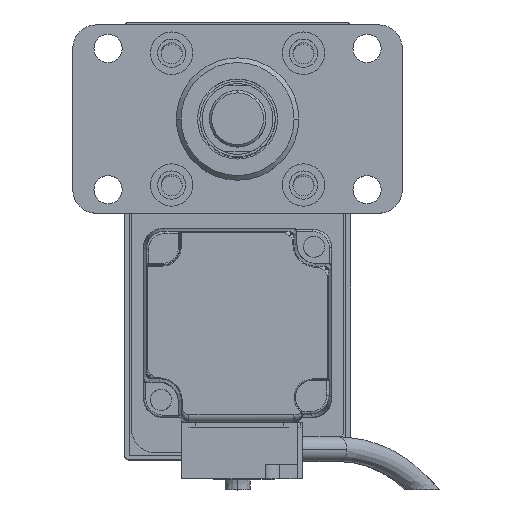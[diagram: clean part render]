
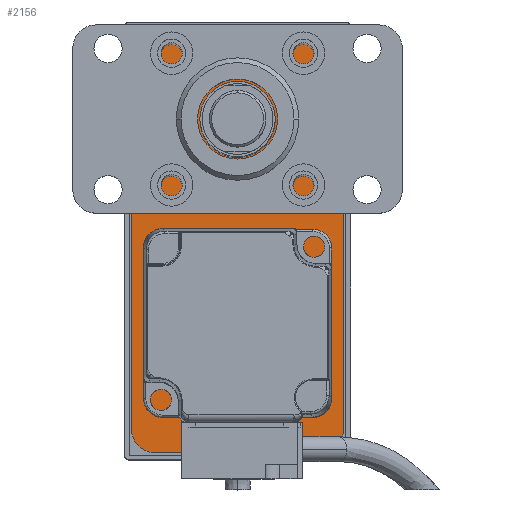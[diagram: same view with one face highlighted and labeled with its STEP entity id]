
A CAD part, top view. The second image highlights one B-rep face of the part: STEP entity #2156.
In plain terms, the highlighted planar face has unit normal (0, 0, 1).
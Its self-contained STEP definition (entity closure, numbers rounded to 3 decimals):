
#66 = VERTEX_POINT ( 'NONE', #13493 ) ;
#814 = EDGE_CURVE ( 'NONE', #10036, #5554, #24606, .T. ) ;
#828 = ORIENTED_EDGE ( 'NONE', *, *, #10095, .T. ) ;
#928 = CARTESIAN_POINT ( 'NONE',  ( 22.5, -40., 10. ) ) ;
#1123 = LINE ( 'NONE', #4551, #17663 ) ;
#1827 = DIRECTION ( 'NONE',  ( 1., 0., 0. ) ) ;
#1835 = ORIENTED_EDGE ( 'NONE', *, *, #2874, .T. ) ;
#2078 = DIRECTION ( 'NONE',  ( 1., 0., 0. ) ) ;
#2156 = ADVANCED_FACE ( 'NONE', ( #21279 ), #22962, .T. ) ;
#2397 = LINE ( 'NONE', #15364, #11428 ) ;
#2412 = DIRECTION ( 'NONE',  ( 0., 0., 1. ) ) ;
#2874 = EDGE_CURVE ( 'NONE', #11523, #66, #6436, .T. ) ;
#4551 = CARTESIAN_POINT ( 'NONE',  ( 22.5, 45., 10. ) ) ;
#5263 = CARTESIAN_POINT ( 'NONE',  ( -22.5, 40., 10. ) ) ;
#5333 = CIRCLE ( 'NONE', #16840, 5. ) ;
#5380 = CARTESIAN_POINT ( 'NONE',  ( 0., 0., 10. ) ) ;
#5554 = VERTEX_POINT ( 'NONE', #928 ) ;
#5762 = DIRECTION ( 'NONE',  ( 0., -1., 0. ) ) ;
#5866 = LINE ( 'NONE', #15298, #9518 ) ;
#5889 = CARTESIAN_POINT ( 'NONE',  ( -17.5, 45., 10. ) ) ;
#6002 = EDGE_CURVE ( 'NONE', #21599, #17853, #2397, .T. ) ;
#6368 = CARTESIAN_POINT ( 'NONE',  ( 17.5, -40., 10. ) ) ;
#6436 = CIRCLE ( 'NONE', #15690, 5. ) ;
#7451 = CARTESIAN_POINT ( 'NONE',  ( 17.5, -45., 10. ) ) ;
#8139 = CARTESIAN_POINT ( 'NONE',  ( 22.5, 40., 10. ) ) ;
#8197 = EDGE_CURVE ( 'NONE', #66, #24096, #1123, .T. ) ;
#8249 = DIRECTION ( 'NONE',  ( 1., 0., 0. ) ) ;
#9168 = VERTEX_POINT ( 'NONE', #16866 ) ;
#9518 = VECTOR ( 'NONE', #1827, 1000. ) ;
#9991 = ORIENTED_EDGE ( 'NONE', *, *, #814, .T. ) ;
#10036 = VERTEX_POINT ( 'NONE', #7451 ) ;
#10095 = EDGE_CURVE ( 'NONE', #17853, #9168, #5333, .T. ) ;
#10671 = CIRCLE ( 'NONE', #23545, 5. ) ;
#11428 = VECTOR ( 'NONE', #5762, 1000. ) ;
#11490 = AXIS2_PLACEMENT_3D ( 'NONE', #5380, #13125, #13384 ) ;
#11523 = VERTEX_POINT ( 'NONE', #8139 ) ;
#11634 = DIRECTION ( 'NONE',  ( 1., 0., 0. ) ) ;
#11852 = DIRECTION ( 'NONE',  ( 0., 0., 1. ) ) ;
#13125 = DIRECTION ( 'NONE',  ( 0., 0., 1. ) ) ;
#13384 = DIRECTION ( 'NONE',  ( 1., 0., 0. ) ) ;
#13493 = CARTESIAN_POINT ( 'NONE',  ( 17.5, 45., 10. ) ) ;
#13546 = ORIENTED_EDGE ( 'NONE', *, *, #16260, .T. ) ;
#15298 = CARTESIAN_POINT ( 'NONE',  ( 22.5, -45., 10. ) ) ;
#15364 = CARTESIAN_POINT ( 'NONE',  ( -22.5, -45., 10. ) ) ;
#15483 = EDGE_CURVE ( 'NONE', #5554, #11523, #17330, .T. ) ;
#15690 = AXIS2_PLACEMENT_3D ( 'NONE', #21379, #19382, #11634 ) ;
#16053 = EDGE_CURVE ( 'NONE', #9168, #10036, #5866, .T. ) ;
#16260 = EDGE_CURVE ( 'NONE', #24096, #21599, #10671, .T. ) ;
#16478 = ORIENTED_EDGE ( 'NONE', *, *, #8197, .T. ) ;
#16840 = AXIS2_PLACEMENT_3D ( 'NONE', #21512, #2412, #19417 ) ;
#16866 = CARTESIAN_POINT ( 'NONE',  ( -17.5, -45., 10. ) ) ;
#17330 = LINE ( 'NONE', #20176, #21523 ) ;
#17663 = VECTOR ( 'NONE', #17754, 1000. ) ;
#17754 = DIRECTION ( 'NONE',  ( -1., 0., 0. ) ) ;
#17853 = VERTEX_POINT ( 'NONE', #19010 ) ;
#18168 = DIRECTION ( 'NONE',  ( 0., 1., 0. ) ) ;
#19010 = CARTESIAN_POINT ( 'NONE',  ( -22.5, -40., 10. ) ) ;
#19161 = ORIENTED_EDGE ( 'NONE', *, *, #15483, .T. ) ;
#19382 = DIRECTION ( 'NONE',  ( 0., 0., 1. ) ) ;
#19383 = AXIS2_PLACEMENT_3D ( 'NONE', #6368, #11852, #8249 ) ;
#19417 = DIRECTION ( 'NONE',  ( 1., 0., 0. ) ) ;
#20176 = CARTESIAN_POINT ( 'NONE',  ( 22.5, -45., 10. ) ) ;
#20641 = ORIENTED_EDGE ( 'NONE', *, *, #16053, .T. ) ;
#21279 = FACE_OUTER_BOUND ( 'NONE', #21574, .T. ) ;
#21379 = CARTESIAN_POINT ( 'NONE',  ( 17.5, 40., 10. ) ) ;
#21512 = CARTESIAN_POINT ( 'NONE',  ( -17.5, -40., 10. ) ) ;
#21523 = VECTOR ( 'NONE', #18168, 1000. ) ;
#21569 = CARTESIAN_POINT ( 'NONE',  ( -17.5, 40., 10. ) ) ;
#21574 = EDGE_LOOP ( 'NONE', ( #19161, #1835, #16478, #13546, #22297, #828, #20641, #9991 ) ) ;
#21599 = VERTEX_POINT ( 'NONE', #5263 ) ;
#22297 = ORIENTED_EDGE ( 'NONE', *, *, #6002, .T. ) ;
#22962 = PLANE ( 'NONE',  #11490 ) ;
#23492 = DIRECTION ( 'NONE',  ( 0., 0., 1. ) ) ;
#23545 = AXIS2_PLACEMENT_3D ( 'NONE', #21569, #23492, #2078 ) ;
#24096 = VERTEX_POINT ( 'NONE', #5889 ) ;
#24606 = CIRCLE ( 'NONE', #19383, 5. ) ;
